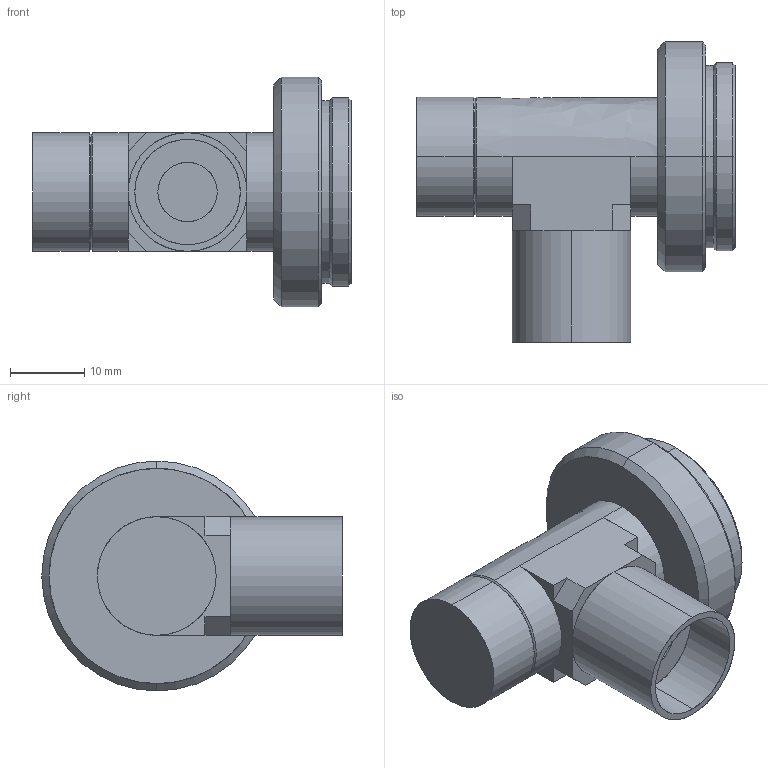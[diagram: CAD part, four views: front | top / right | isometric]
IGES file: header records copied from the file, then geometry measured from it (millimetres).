
Start section: SolidWorks IGES file using analytic representation for surfaces
Bounding box: 43 x 40.5 x 31 mm (x, y, z)
Surface area: 5588.2 mm2 (no closed solid volume)
Topology: 0 solids, 0 shells, 52 faces, 676 edges, 676 vertices
Faces by surface type: revolution 29, bspline 23
